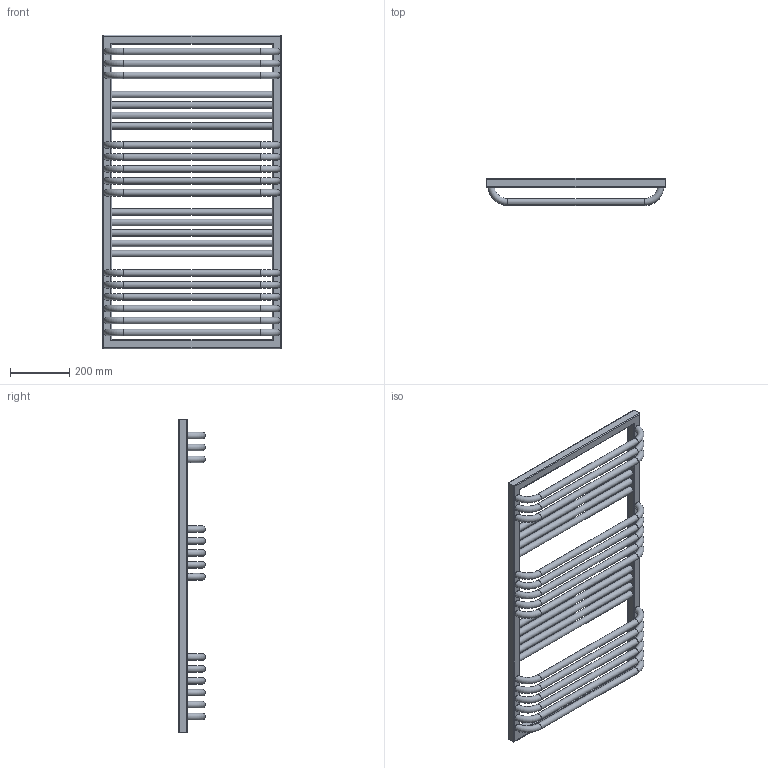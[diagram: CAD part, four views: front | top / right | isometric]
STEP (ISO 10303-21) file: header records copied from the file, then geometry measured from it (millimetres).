
FILE_DESCRIPTION((''),'2;1');
FILE_NAME('Z:\R\G\P\RGPH18 - Grzejnik POC\Work\Inventor\POC 1-6-8 v2.0\Marketing\AutoCad 3D\POC-1055-600-1-6-8.stp','2012-07-12T14:39:37',('KurKa'),(''),'Autodesk Inventor 2012','Autodesk Inventor 2012','');
FILE_SCHEMA(('AUTOMOTIVE_DESIGN { 1 0 10303 214 1 1 1 1 }'));
Length unit declared in the file: millimetre
Products named in the file (1): POC-1055-600-1-6-8
Bounding box: 600 x 90 x 1055 mm (x, y, z)
Volume: 7994625.6 mm3; surface area: 1287690.2 mm2
Topology: 1 solids, 1 shells, 86 faces, 224 edges, 143 vertices
Faces by surface type: cylinder 42, torus 31, plane 13
Full cylindrical faces by diameter (mm): 18.631 x3, 22 x23
Entity records: 3976 total; most frequent: CARTESIAN_POINT 2161, DIRECTION 356, ORIENTED_EDGE 278, EDGE_LOOP 194, AXIS2_PLACEMENT_3D 158, EDGE_CURVE 139, VERTEX_POINT 115, FACE_BOUND 108
